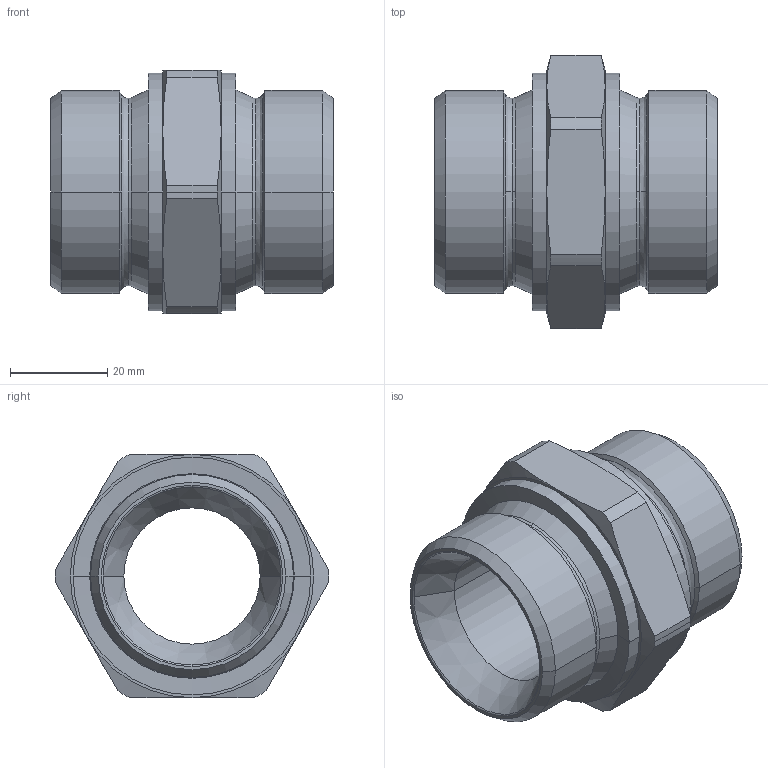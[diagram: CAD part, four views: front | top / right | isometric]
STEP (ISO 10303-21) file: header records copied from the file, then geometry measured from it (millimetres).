
FILE_DESCRIPTION((''),'2;1');
FILE_NAME('300526.stp','2006-09-11T08:14:17',(''),(''),'AutoCAD STEP 2000i','AutoCAD 2000i',', , ');
FILE_SCHEMA(('CONFIG_CONTROL_DESIGN'));
Length unit declared in the file: millimetre
Products named in the file (2): 300526.0; CHIAVE SMUSSATA#0
Assembly tree (1 placements, depth 2):
  300526.0
    CHIAVE SMUSSATA#0
Bounding box: 58 x 56.2 x 50 mm (x, y, z)
Volume: 50847.9 mm3; surface area: 15775.6 mm2
Topology: 1 solids, 1 shells, 72 faces, 170 edges, 102 vertices
Faces by surface type: cone 32, cylinder 18, plane 10, bspline 8, torus 4
Entity records: 2493 total; most frequent: CARTESIAN_POINT 746, DIRECTION 380, ORIENTED_EDGE 340, EDGE_CURVE 170, AXIS2_PLACEMENT_3D 168, VERTEX_POINT 102, CIRCLE 102, EDGE_LOOP 76
